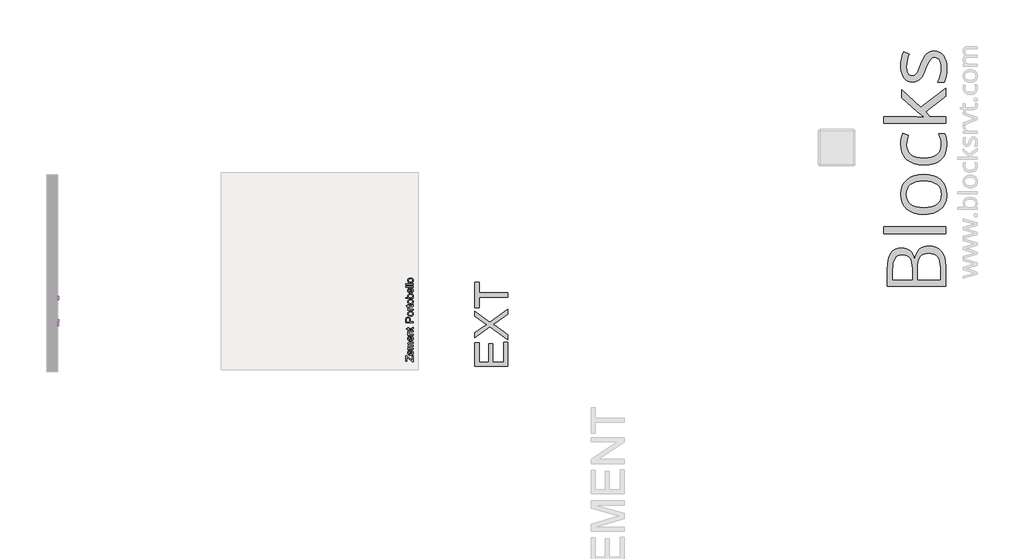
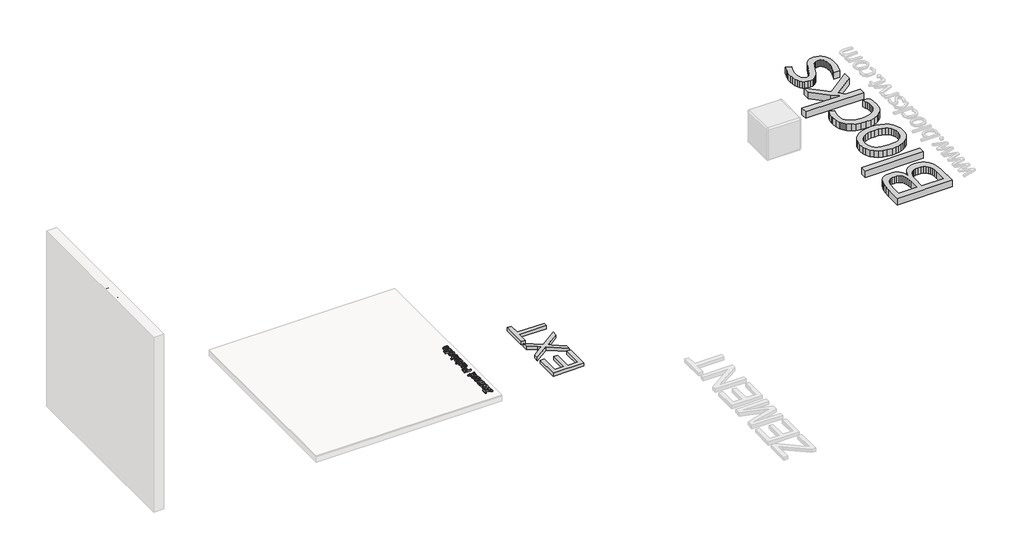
# One storey, part 11 of 12: 6 proxies.
"""IFC4 building model written with IfcOpenShell, lengths in millimetres."""

from ifc_helpers import new_model, si_unit, frame, origin, origin_with_axes, place, context, project, spatial, polyline, outline, extrude, element, save

model = new_model("IFC4")

# Units and contexts
model_context = context("Model", 3, world=origin())
ifc_project = project(units=[si_unit("LENGTHUNIT", "METRE", prefix="MILLI")], contexts=[model_context])

# Site, building, storey
site = spatial("IfcSite", under=ifc_project)
building = spatial("IfcBuilding", under=site)
storey = spatial("IfcBuildingStorey", under=building, Name="PORTOBELLO - SHOWROOM", Elevation=0.0)

# Proxies
placement = place(None, origin())
element("IfcBuildingElementProxy", 1, Name="10mm Arial", ObjectType="10mm Arial", at=placement, inside=storey, context=model_context, shape_type="SweptSolid", body=[
    extrude(outline(polyline([(42219.9517231, 17882.6766925), (42206.9287005, 17882.6766925), (42144.0208793, 17934.0575444), (42132.0524517, 17943.8186801), (42132.0524517, 17888.9552118), (42119.495413, 17888.9552118), (42119.495413, 17959.5885549), (42132.0524517, 17959.5885549), (42200.8954358, 17903.3516606), (42207.3946843, 17898.0541599), (42207.3946843, 17961.1581848), (42219.9517231, 17961.1581848), (42219.9517231, 17882.6766925)])), frame((0.0, 0.0, 17.0), z_axis=(0.0, 0.0, 1.0), x_axis=(1.0, 0.0, 0.0)), (0.0, 0.0, 1.0), 20.0),
    extrude(outline(polyline([(42197.9769053, 18025.3658557), (42199.5465351, 18037.6776398), (42208.8232928, 18033.241596), (42215.7578684, 18026.1629333), (42220.0804818, 18016.6010671), (42221.521353, 18004.715413), (42219.0350838, 17989.9817391), (42211.5762764, 17978.6448423), (42199.6293086, 17971.4159611), (42183.6785584, 17969.006334), (42167.1913136, 17971.4404865), (42154.8611354, 17978.7429441), (42147.1724017, 17989.9265568), (42144.6094905, 18004.0041745), (42147.1662704, 18017.6433994), (42154.83661, 18028.5419035), (42167.1422627, 18035.6880113), (42183.604982, 18038.0700472), (42186.9894963, 18037.9964708), (42186.9894963, 17981.5633728), (42196.3888813, 17983.7369422), (42203.2989315, 17988.7861226), (42207.5479685, 17996.0732518), (42208.9643142, 18004.9606677), (42206.3400893, 18017.2724518), (42197.9769053, 18025.3658557)]), holes=[polyline([(42174.4324576, 17981.5633728), (42174.4324576, 18025.5130084), (42163.0526412, 18020.4852878), (42158.6380572, 18013.1644361), (42157.1665293, 18003.9551235), (42161.8631561, 17988.491817), (42167.3537948, 17983.6265776), (42174.4324576, 17981.5633728)])]), frame((0.0, 0.0, 17.0), z_axis=(0.0, 0.0, 1.0), x_axis=(1.0, 0.0, 0.0)), (0.0, 0.0, 1.0), 20.0),
    extrude(outline(polyline([(42219.9517231, 18050.627086), (42146.1791203, 18050.627086), (42146.1791203, 18063.1841248), (42158.3192262, 18063.1841248), (42148.3741496, 18071.8170889), (42144.6094905, 18084.1043475), (42148.447726, 18096.6859118), (42159.202143, 18103.6020933), (42148.2576536, 18113.4000171), (42144.6094905, 18125.7731149), (42146.1270037, 18135.2123537), (42150.6795434, 18142.1929146), (42158.3897369, 18146.506331), (42169.3802115, 18147.9441364), (42219.9517231, 18147.9441364), (42219.9517231, 18135.3870977), (42174.7758141, 18135.3870977), (42164.2911772, 18134.222138), (42159.1285666, 18130.0037578), (42157.1665293, 18122.8300589), (42162.1942499, 18110.4814866), (42168.736418, 18106.7934696), (42178.3074813, 18105.5641306), (42219.9517231, 18105.5641306), (42219.9517231, 18093.0070918), (42173.3778625, 18093.0070918), (42161.2132312, 18090.1008241), (42157.1665293, 18080.5726804), (42159.8643306, 18071.2775286), (42167.7615307, 18065.0971111), (42182.7465907, 18063.1841248), (42219.9517231, 18063.1841248), (42219.9517231, 18050.627086)])), frame((0.0, 0.0, 17.0), z_axis=(0.0, 0.0, 1.0), x_axis=(1.0, 0.0, 0.0)), (0.0, 0.0, 1.0), 20.0),
    extrude(outline(polyline([(42197.9769053, 18218.4303267), (42199.5465351, 18230.7421108), (42208.8232928, 18226.3060671), (42215.7578684, 18219.2274044), (42220.0804818, 18209.6655382), (42221.521353, 18197.7798841), (42219.0350838, 18183.0462102), (42211.5762764, 18171.7093133), (42199.6293086, 18164.4804321), (42183.6785584, 18162.0708051), (42167.1913136, 18164.5049576), (42154.8611354, 18171.8074152), (42147.1724017, 18182.9910279), (42144.6094905, 18197.0686455), (42147.1662704, 18210.7078705), (42154.83661, 18221.6063746), (42167.1422627, 18228.7524824), (42183.604982, 18231.1345183), (42186.9894963, 18231.0609419), (42186.9894963, 18174.6278438), (42196.3888813, 18176.8014133), (42203.2989315, 18181.8505937), (42207.5479685, 18189.1377229), (42208.9643142, 18198.0251387), (42206.3400893, 18210.3369228), (42197.9769053, 18218.4303267)]), holes=[polyline([(42174.4324576, 18174.6278438), (42174.4324576, 18218.5774795), (42163.0526412, 18213.5497589), (42158.6380572, 18206.2289072), (42157.1665293, 18197.0195946), (42161.8631561, 18181.5562881), (42167.3537948, 18176.6910487), (42174.4324576, 18174.6278438)])]), frame((0.0, 0.0, 17.0), z_axis=(0.0, 0.0, 1.0), x_axis=(1.0, 0.0, 0.0)), (0.0, 0.0, 1.0), 20.0),
    extrude(outline(polyline([(42219.9517231, 18243.6915571), (42146.1791203, 18243.6915571), (42146.1791203, 18256.2485958), (42156.4798162, 18256.2485958), (42147.5770719, 18265.8503159), (42144.6094905, 18278.9591777), (42147.0007235, 18290.8172406), (42153.2792429, 18298.9106445), (42162.5130809, 18302.6753036), (42174.6531868, 18303.3374912), (42219.9517231, 18303.3374912), (42219.9517231, 18290.7804524), (42176.3454439, 18290.7804524), (42165.2354077, 18289.3334499), (42159.3615585, 18284.2198902), (42157.1665293, 18275.5991888), (42162.096148, 18261.9752922), (42169.2391901, 18257.6802699), (42180.8090788, 18256.2485958), (42219.9517231, 18256.2485958), (42219.9517231, 18243.6915571)])), frame((0.0, 0.0, 17.0), z_axis=(0.0, 0.0, 1.0), x_axis=(1.0, 0.0, 0.0)), (0.0, 0.0, 1.0), 20.0),
    extrude(outline(polyline([(42209.479349, 18347.2871269), (42220.3196051, 18348.8567567), (42221.521353, 18339.4635031), (42219.4366883, 18328.9420781), (42213.9675093, 18323.6936283), (42199.7182134, 18322.1730494), (42158.7361591, 18322.1730494), (42158.7361591, 18312.7552703), (42146.1791203, 18312.7552703), (42146.1791203, 18322.1730494), (42128.2510044, 18322.1730494), (42120.8688391, 18334.7300881), (42146.1791203, 18334.7300881), (42146.1791203, 18347.2871269), (42158.7361591, 18347.2871269), (42158.7361591, 18334.7300881), (42199.3503314, 18334.7300881), (42205.8250545, 18335.3922757), (42208.1181856, 18337.538254), (42208.9643142, 18341.8179479), (42209.479349, 18347.2871269)])), frame((0.0, 0.0, 17.0), z_axis=(0.0, 0.0, 1.0), x_axis=(1.0, 0.0, 0.0)), (0.0, 0.0, 1.0), 20.0),
])
element("IfcBuildingElementProxy", 2, Name="10mm Arial", ObjectType="10mm Arial", at=placement, inside=storey, context=model_context, shape_type="SweptSolid", body=[
    extrude(outline(polyline([(42219.9517231, 18415.5248417), (42119.495413, 18415.5248417), (42119.495413, 18452.7544996), (42120.4519061, 18467.764085), (42125.148533, 18479.9655045), (42134.8606176, 18487.8749674), (42148.5580906, 18490.8670743), (42160.3977595, 18488.846789), (42170.2631283, 18482.7859331), (42176.9217924, 18471.452102), (42179.1413471, 18453.6128909), (42179.1413471, 18428.0818805), (42219.9517231, 18428.0818805), (42219.9517231, 18415.5248417)]), holes=[polyline([(42166.5843083, 18428.0818805), (42166.5843083, 18454.3486549), (42161.9735207, 18472.8408565), (42156.4246339, 18476.9427408), (42148.999549, 18478.3100355), (42138.6007512, 18475.0849367), (42132.9108431, 18466.6113881), (42132.0524517, 18454.0543493), (42132.0524517, 18428.0818805), (42166.5843083, 18428.0818805)])]), frame((0.0, 0.0, 17.0), z_axis=(0.0, 0.0, 1.0), x_axis=(1.0, 0.0, 0.0)), (0.0, 0.0, 1.0), 20.0),
    extrude(outline(polyline([(42183.0654217, 18503.4241131), (42165.2783273, 18506.1403085), (42152.7764708, 18514.2888947), (42146.6512356, 18524.3565986), (42144.6094905, 18536.4108653), (42147.0957596, 18549.6025005), (42154.5545671, 18560.139254), (42166.3973017, 18567.0462384), (42182.0353521, 18569.3485666), (42204.378052, 18565.2773392), (42217.0209299, 18553.4192762), (42221.521353, 18536.4108653), (42219.0442809, 18523.0598146), (42211.6130646, 18512.5353238), (42199.5220096, 18505.7019158), (42183.0654217, 18503.4241131)]), holes=[polyline([(42183.0408963, 18515.9811518), (42194.4053842, 18517.4342857), (42202.5018538, 18521.7936874), (42207.3486991, 18528.3542496), (42208.9643142, 18536.4108653), (42207.339502, 18544.4306928), (42202.4650656, 18550.9789923), (42194.2612971, 18555.338394), (42182.6484888, 18556.7915278), (42171.6150946, 18555.3291969), (42163.6289896, 18550.9422041), (42158.7821444, 18544.3847075), (42157.1665293, 18536.4108653), (42158.776013, 18528.3542496), (42163.6044642, 18521.7936874), (42171.6825397, 18517.4342857), (42183.0408963, 18515.9811518)])]), frame((0.0, 0.0, 17.0), z_axis=(0.0, 0.0, 1.0), x_axis=(1.0, 0.0, 0.0)), (0.0, 0.0, 1.0), 20.0),
    extrude(outline(polyline([(42219.9517231, 18583.4752352), (42146.1791203, 18583.4752352), (42146.1791203, 18594.4626441), (42157.0929529, 18594.4626441), (42147.0375117, 18602.2617424), (42144.6094905, 18610.1098917), (42148.4845142, 18622.7159814), (42159.7417032, 18618.5221266), (42157.1665293, 18609.6929587), (42159.6436014, 18602.5928362), (42166.5107319, 18598.0678877), (42181.1769608, 18596.032274), (42219.9517231, 18596.032274), (42219.9517231, 18583.4752352)])), frame((0.0, 0.0, 17.0), z_axis=(0.0, 0.0, 1.0), x_axis=(1.0, 0.0, 0.0)), (0.0, 0.0, 1.0), 20.0),
    extrude(outline(polyline([(42209.479349, 18657.247838), (42220.3196051, 18658.8174678), (42221.521353, 18649.4242142), (42219.4366883, 18638.9027892), (42213.9675093, 18633.6543394), (42199.7182134, 18632.1337604), (42158.7361591, 18632.1337604), (42158.7361591, 18622.7159814), (42148.4845142, 18622.7159814), (42146.1791203, 18622.7159814), (42146.1791203, 18632.1337604), (42128.2510044, 18632.1337604), (42120.8688391, 18644.6907992), (42146.1791203, 18644.6907992), (42146.1791203, 18657.247838), (42158.7361591, 18657.247838), (42158.7361591, 18644.6907992), (42199.3503314, 18644.6907992), (42205.8250545, 18645.3529868), (42208.1181856, 18647.4989651), (42208.9643142, 18651.778659), (42209.479349, 18657.247838)])), frame((0.0, 0.0, 17.0), z_axis=(0.0, 0.0, 1.0), x_axis=(1.0, 0.0, 0.0)), (0.0, 0.0, 1.0), 20.0),
    extrude(outline(polyline([(42183.0654217, 18666.6656171), (42165.2783273, 18669.3818125), (42152.7764708, 18677.5303987), (42146.6512356, 18687.5981026), (42144.6094905, 18699.6523693), (42147.0957596, 18712.8440045), (42154.5545671, 18723.380758), (42166.3973017, 18730.2877424), (42182.0353521, 18732.5900706), (42204.378052, 18728.5188432), (42217.0209299, 18716.6607802), (42221.521353, 18699.6523693), (42219.0442809, 18686.3013186), (42211.6130646, 18675.7768278), (42199.5220096, 18668.9434197), (42183.0654217, 18666.6656171)]), holes=[polyline([(42183.0408963, 18679.2226558), (42194.4053842, 18680.6757897), (42202.5018538, 18685.0351914), (42207.3486991, 18691.5957536), (42208.9643142, 18699.6523693), (42207.339502, 18707.6721968), (42202.4650656, 18714.2204963), (42194.2612971, 18718.5798979), (42182.6484888, 18720.0330318), (42171.6150946, 18718.5707009), (42163.6289896, 18714.1837081), (42158.7821444, 18707.6262115), (42157.1665293, 18699.6523693), (42158.776013, 18691.5957536), (42163.6044642, 18685.0351914), (42171.6825397, 18680.6757897), (42183.0408963, 18679.2226558)])]), frame((0.0, 0.0, 17.0), z_axis=(0.0, 0.0, 1.0), x_axis=(1.0, 0.0, 0.0)), (0.0, 0.0, 1.0), 20.0),
    extrude(outline(polyline([(42219.9517231, 18759.273778), (42219.9517231, 18746.7167392), (42119.495413, 18746.7167392), (42119.495413, 18759.273778), (42156.7495963, 18759.273778), (42147.644517, 18768.0661577), (42144.6094905, 18778.9922529), (42147.34408, 18791.5738172), (42155.0328137, 18801.3349528), (42166.9889785, 18807.3314293), (42181.9617757, 18809.5019331), (42198.724932, 18807.2547872), (42211.1961316, 18800.5133496), (42218.9400476, 18790.6203897), (42221.521353, 18778.9186765), (42218.1920209, 18767.753458), (42208.2040247, 18759.273778), (42219.9517231, 18759.273778)]), holes=[polyline([(42182.5503869, 18759.273778), (42200.1106208, 18762.7073433), (42206.7508908, 18769.2862996), (42208.9643142, 18777.839556), (42207.3333707, 18785.0868313), (42202.4405401, 18791.2795116), (42194.3164794, 18795.5285486), (42182.9918453, 18796.9448943), (42171.5016643, 18795.5867966), (42163.4695741, 18791.5125035), (42158.7422905, 18785.5129613), (42157.1665293, 18778.3791163), (42158.7974728, 18771.131841), (42163.6903033, 18764.9391607), (42171.6672112, 18760.6901237), (42182.5503869, 18759.273778)])]), frame((0.0, 0.0, 17.0), z_axis=(0.0, 0.0, 1.0), x_axis=(1.0, 0.0, 0.0)), (0.0, 0.0, 1.0), 20.0),
    extrude(outline(polyline([(42197.9769053, 18875.2792338), (42199.5465351, 18887.5910179), (42208.8232928, 18883.1549742), (42215.7578684, 18876.0763114), (42220.0804818, 18866.5144453), (42221.521353, 18854.6287911), (42219.0350838, 18839.8951172), (42211.5762764, 18828.5582204), (42199.6293086, 18821.3293392), (42183.6785584, 18818.9197121), (42167.1913136, 18821.3538647), (42154.8611354, 18828.6563223), (42147.1724017, 18839.8399349), (42144.6094905, 18853.9175526), (42147.1662704, 18867.5567776), (42154.83661, 18878.4552817), (42167.1422627, 18885.6013894), (42183.604982, 18887.9834254), (42186.9894963, 18887.909849), (42186.9894963, 18831.4767509), (42196.3888813, 18833.6503204), (42203.2989315, 18838.6995007), (42207.5479685, 18845.9866299), (42208.9643142, 18854.8740458), (42206.3400893, 18867.1858299), (42197.9769053, 18875.2792338)]), holes=[polyline([(42174.4324576, 18831.4767509), (42174.4324576, 18875.4263866), (42163.0526412, 18870.398666), (42158.6380572, 18863.0778143), (42157.1665293, 18853.8685017), (42161.8631561, 18838.4051951), (42167.3537948, 18833.5399558), (42174.4324576, 18831.4767509)])]), frame((0.0, 0.0, 17.0), z_axis=(0.0, 0.0, 1.0), x_axis=(1.0, 0.0, 0.0)), (0.0, 0.0, 1.0), 20.0),
    extrude(outline(polyline([(42219.9517231, 18900.5404641), (42119.495413, 18900.5404641), (42119.495413, 18913.0975029), (42219.9517231, 18913.0975029), (42219.9517231, 18900.5404641)])), frame((0.0, 0.0, 17.0), z_axis=(0.0, 0.0, 1.0), x_axis=(1.0, 0.0, 0.0)), (0.0, 0.0, 1.0), 20.0),
    extrude(outline(polyline([(42219.9517231, 18931.933061), (42119.495413, 18931.933061), (42119.495413, 18944.4900998), (42219.9517231, 18944.4900998), (42219.9517231, 18931.933061)])), frame((0.0, 0.0, 17.0), z_axis=(0.0, 0.0, 1.0), x_axis=(1.0, 0.0, 0.0)), (0.0, 0.0, 1.0), 20.0),
    extrude(outline(polyline([(42183.0654217, 18960.1863983), (42165.2783273, 18962.9025937), (42152.7764708, 18971.0511799), (42146.6512356, 18981.1188838), (42144.6094905, 18993.1731505), (42147.0957596, 19006.3647857), (42154.5545671, 19016.9015392), (42166.3973017, 19023.8085237), (42182.0353521, 19026.1108518), (42204.378052, 19022.0396244), (42217.0209299, 19010.1815614), (42221.521353, 18993.1731505), (42219.0442809, 18979.8220998), (42211.6130646, 18969.297609), (42199.5220096, 18962.464201), (42183.0654217, 18960.1863983)]), holes=[polyline([(42183.0408963, 18972.743437), (42194.4053842, 18974.1965709), (42202.5018538, 18978.5559726), (42207.3486991, 18985.1165348), (42208.9643142, 18993.1731505), (42207.339502, 19001.192978), (42202.4650656, 19007.7412775), (42194.2612971, 19012.1006792), (42182.6484888, 19013.553813), (42171.6150946, 19012.0914821), (42163.6289896, 19007.7044893), (42158.7821444, 19001.1469928), (42157.1665293, 18993.1731505), (42158.776013, 18985.1165348), (42163.6044642, 18978.5559726), (42171.6825397, 18974.1965709), (42183.0408963, 18972.743437)])]), frame((0.0, 0.0, 17.0), z_axis=(0.0, 0.0, 1.0), x_axis=(1.0, 0.0, 0.0)), (0.0, 0.0, 1.0), 20.0),
])
element("IfcBuildingElementProxy", 3, Name="10mm Arial", ObjectType="10mm Arial", at=placement, inside=storey, context=model_context, shape_type="SweptSolid", body=[
    extrude(outline(polyline([(17855.5100527, 2518.9109306), (17855.5100527, 2619.3672407), (17892.7397106, 2619.3672407), (17907.749296, 2618.4107475), (17919.9507155, 2613.7141207), (17927.8601784, 2604.002036), (17930.8522853, 2590.3045631), (17928.832, 2578.4648942), (17922.7711442, 2568.5995254), (17911.437313, 2561.9408613), (17893.598102, 2559.7213066), (17868.0670915, 2559.7213066), (17868.0670915, 2518.9109306), (17855.5100527, 2518.9109306)]), holes=[polyline([(17868.0670915, 2572.2783453), (17894.3338659, 2572.2783453), (17912.8260676, 2576.889133), (17916.9279518, 2582.4380198), (17918.2952466, 2589.8631047), (17915.0701477, 2600.2619024), (17906.5965991, 2605.9518106), (17894.0395603, 2606.8102019), (17868.0670915, 2606.8102019), (17868.0670915, 2572.2783453)])]), frame((37348.7766485, 0.0, 0.0), z_axis=(1.0, 0.0, 0.0), x_axis=(0.0, 1.0, 0.0)), (0.0, 0.0, 1.0), 20.0),
    extrude(outline(polyline([(37368.7766485, 17959.1056226), (37368.7766485, 17946.5485838), (37348.7766485, 17946.5485838), (37348.7766485, 17959.1056226), (37368.7766485, 17959.1056226)])), frame((0.0, 0.0, 2518.9109306), z_axis=(0.0, 0.0, 1.0), x_axis=(1.0, 0.0, 0.0)), (0.0, 0.0, 1.0), 100.4563101),
    extrude(outline(polyline([(18025.0300761, 2528.3287096), (18012.8531821, 2519.8183728), (17999.4009638, 2517.3413007), (17988.9071299, 2518.8312228), (17981.1662795, 2523.300989), (17976.3930107, 2530.0884118), (17974.801921, 2538.5313036), (17977.2054167, 2548.4641175), (17983.5207243, 2555.6746046), (17992.313104, 2559.794883), (18003.1778856, 2561.6833439), (18024.9564997, 2565.9998259), (18025.0300761, 2568.7957291), (18021.5719853, 2578.0663554), (18007.6905714, 2581.6961244), (17994.9863798, 2579.280366), (17988.9285896, 2570.7087155), (17976.3715509, 2572.2783453), (17981.8039417, 2584.5410785), (17992.7422997, 2591.7270401), (18009.3092522, 2594.2531632), (18024.527304, 2592.0213457), (18033.12348, 2586.4172767), (18036.9739782, 2577.8946771), (18037.5871149, 2566.9072682), (18037.5871149, 2551.2845461), (18038.224777, 2529.4691438), (18040.7263746, 2518.9109306), (18028.1693358, 2518.9109306), (18025.0300761, 2528.3287096)]), holes=[polyline([(18025.0300761, 2553.4427872), (18004.7720409, 2549.592289), (17993.968573, 2547.5566752), (17989.0757424, 2544.2457373), (17987.3589598, 2539.4142204), (17991.0990934, 2532.6206662), (18002.0742396, 2529.8983395), (18014.7784312, 2532.9027091), (18022.9699369, 2540.1745099), (18024.9564997, 2549.8865946), (18025.0300761, 2553.4427872)])]), frame((37348.7766485, 0.0, 0.0), z_axis=(1.0, 0.0, 0.0), x_axis=(0.0, 1.0, 0.0)), (0.0, 0.0, 1.0), 20.0),
    extrude(outline(polyline([(18081.5367506, 2529.3833047), (18083.1063804, 2518.5430486), (18073.7131268, 2517.3413007), (18063.1917017, 2519.4259654), (18057.9432519, 2524.8951443), (18056.422673, 2539.1444403), (18056.422673, 2580.1264946), (18047.0048939, 2580.1264946), (18047.0048939, 2592.6835333), (18056.422673, 2592.6835333), (18056.422673, 2610.6116492), (18068.9797118, 2617.9938146), (18068.9797118, 2592.6835333), (18081.5367506, 2592.6835333), (18081.5367506, 2580.1264946), (18068.9797118, 2580.1264946), (18068.9797118, 2539.5123223), (18069.6418994, 2533.0375992), (18071.7878777, 2530.7444681), (18076.0675716, 2529.8983395), (18081.5367506, 2529.3833047)])), frame((37348.7766485, 0.0, 0.0), z_axis=(1.0, 0.0, 0.0), x_axis=(0.0, 1.0, 0.0)), (0.0, 0.0, 1.0), 20.0),
    extrude(outline(polyline([(18086.2456401, 2518.9109306), (18086.2456401, 2530.7322053), (18129.5821391, 2580.1264946), (18116.7553202, 2580.1264946), (18089.3848998, 2580.1264946), (18089.3848998, 2592.6835333), (18147.4612041, 2592.6835333), (18147.4612041, 2582.0149555), (18109.0297983, 2538.1879471), (18103.1436864, 2531.4679693), (18117.6627625, 2531.4679693), (18149.0308339, 2531.4679693), (18149.0308339, 2518.9109306), (18086.2456401, 2518.9109306)])), frame((37348.7766485, 0.0, 0.0), z_axis=(1.0, 0.0, 0.0), x_axis=(0.0, 1.0, 0.0)), (0.0, 0.0, 1.0), 20.0),
    extrude(outline(polyline([(18194.5500995, 2518.9109306), (18194.5500995, 2531.9339532), (18245.9309515, 2594.8417744), (18255.6920871, 2606.8102019), (18200.8286189, 2606.8102019), (18200.8286189, 2619.3672407), (18271.4619619, 2619.3672407), (18271.4619619, 2606.8102019), (18215.2250676, 2537.9672179), (18209.9275669, 2531.4679693), (18273.0315918, 2531.4679693), (18273.0315918, 2518.9109306), (18194.5500995, 2518.9109306)])), frame((37348.7766485, 0.0, 0.0), z_axis=(1.0, 0.0, 0.0), x_axis=(0.0, 1.0, 0.0)), (0.0, 0.0, 1.0), 20.0),
    extrude(outline(polyline([(18337.2392627, 2540.8857484), (18349.5510468, 2539.3161186), (18345.1150031, 2530.0393609), (18338.0363403, 2523.1047853), (18328.4744741, 2518.7821719), (18316.58882, 2517.3413007), (18301.8551461, 2519.8275699), (18290.5182493, 2527.2863773), (18283.2893681, 2539.2333451), (18280.879741, 2555.1840953), (18283.3138935, 2571.67134), (18290.6163511, 2584.0015182), (18301.7999638, 2591.6902519), (18315.8775815, 2594.2531632), (18329.5168065, 2591.6963833), (18340.4153106, 2584.0260437), (18347.5614183, 2571.720391), (18349.9434542, 2555.2576717), (18349.8698778, 2551.8731573), (18293.4367798, 2551.8731573), (18295.6103492, 2542.4737723), (18300.6595296, 2535.5637222), (18307.9466588, 2531.3146852), (18316.8340747, 2529.8983395), (18329.1458588, 2532.5225644), (18337.2392627, 2540.8857484)]), holes=[polyline([(18293.4367798, 2564.4301961), (18337.3864155, 2564.4301961), (18332.3586949, 2575.8100125), (18325.0378432, 2580.2245964), (18315.8285306, 2581.6961244), (18300.365224, 2576.9994976), (18295.4999846, 2571.5088588), (18293.4367798, 2564.4301961)])]), frame((37348.7766485, 0.0, 0.0), z_axis=(1.0, 0.0, 0.0), x_axis=(0.0, 1.0, 0.0)), (0.0, 0.0, 1.0), 20.0),
    extrude(outline(polyline([(18362.500493, 2518.9109306), (18362.500493, 2592.6835333), (18375.0575318, 2592.6835333), (18375.0575318, 2580.5434275), (18383.6904959, 2590.4885041), (18395.9777546, 2594.2531632), (18408.5593188, 2590.4149277), (18415.4755003, 2579.6605107), (18425.2734241, 2590.6050001), (18437.6465219, 2594.2531632), (18447.0857607, 2592.7356499), (18454.0663216, 2588.1831103), (18458.379738, 2580.4729168), (18459.8175435, 2569.4824422), (18459.8175435, 2518.9109306), (18447.2605047, 2518.9109306), (18447.2605047, 2564.0868396), (18446.095545, 2574.5714764), (18441.8771648, 2579.7340871), (18434.7034659, 2581.6961244), (18422.3548936, 2576.6684038), (18418.6668766, 2570.1262357), (18417.4375376, 2560.5551724), (18417.4375376, 2518.9109306), (18404.8804989, 2518.9109306), (18404.8804989, 2565.4847911), (18401.9742311, 2577.6494225), (18392.4460874, 2581.6961244), (18383.1509357, 2578.9983231), (18376.9705181, 2571.1011229), (18375.0575318, 2556.116063), (18375.0575318, 2518.9109306), (18362.500493, 2518.9109306)])), frame((37348.7766485, 0.0, 0.0), z_axis=(1.0, 0.0, 0.0), x_axis=(0.0, 1.0, 0.0)), (0.0, 0.0, 1.0), 20.0),
    extrude(outline(polyline([(18530.3037337, 2540.8857484), (18542.6155178, 2539.3161186), (18538.1794741, 2530.0393609), (18531.1008114, 2523.1047853), (18521.5389452, 2518.7821719), (18509.6532911, 2517.3413007), (18494.9196172, 2519.8275699), (18483.5827204, 2527.2863773), (18476.3538391, 2539.2333451), (18473.9442121, 2555.1840953), (18476.3783646, 2571.67134), (18483.6808222, 2584.0015182), (18494.8644349, 2591.6902519), (18508.9420526, 2594.2531632), (18522.5812775, 2591.6963833), (18533.4797816, 2584.0260437), (18540.6258894, 2571.720391), (18543.0079253, 2555.2576717), (18542.9343489, 2551.8731573), (18486.5012508, 2551.8731573), (18488.6748203, 2542.4737723), (18493.7240007, 2535.5637222), (18501.0111299, 2531.3146852), (18509.8985457, 2529.8983395), (18522.2103298, 2532.5225644), (18530.3037337, 2540.8857484)]), holes=[polyline([(18486.5012508, 2564.4301961), (18530.4508865, 2564.4301961), (18525.4231659, 2575.8100125), (18518.1023142, 2580.2245964), (18508.8930016, 2581.6961244), (18493.4296951, 2576.9994976), (18488.5644557, 2571.5088588), (18486.5012508, 2564.4301961)])]), frame((37348.7766485, 0.0, 0.0), z_axis=(1.0, 0.0, 0.0), x_axis=(0.0, 1.0, 0.0)), (0.0, 0.0, 1.0), 20.0),
    extrude(outline(polyline([(18555.5649641, 2518.9109306), (18555.5649641, 2592.6835333), (18568.1220028, 2592.6835333), (18568.1220028, 2582.3828375), (18577.7237229, 2591.2855817), (18590.8325847, 2594.2531632), (18602.6906477, 2591.8619302), (18610.7840516, 2585.5834108), (18614.5487106, 2576.3495727), (18615.2108982, 2564.2094669), (18615.2108982, 2518.9109306), (18602.6538595, 2518.9109306), (18602.6538595, 2562.5172097), (18601.2068569, 2573.627246), (18596.0932972, 2579.5010952), (18587.4725958, 2581.6961244), (18573.8486992, 2576.7665057), (18569.5536769, 2569.6234636), (18568.1220028, 2558.0535748), (18568.1220028, 2518.9109306), (18555.5649641, 2518.9109306)])), frame((37348.7766485, 0.0, 0.0), z_axis=(1.0, 0.0, 0.0), x_axis=(0.0, 1.0, 0.0)), (0.0, 0.0, 1.0), 20.0),
    extrude(outline(polyline([(18659.1605339, 2529.3833047), (18660.7301638, 2518.5430486), (18651.3369102, 2517.3413007), (18640.8154851, 2519.4259654), (18635.5670353, 2524.8951443), (18634.0464564, 2539.1444403), (18634.0464564, 2580.1264946), (18624.6286773, 2580.1264946), (18624.6286773, 2592.6835333), (18634.0464564, 2592.6835333), (18634.0464564, 2610.6116492), (18646.6034951, 2617.9938146), (18646.6034951, 2592.6835333), (18659.1605339, 2592.6835333), (18659.1605339, 2580.1264946), (18646.6034951, 2580.1264946), (18646.6034951, 2539.5123223), (18647.2656827, 2533.0375992), (18649.411661, 2530.7444681), (18653.6913549, 2529.8983395), (18659.1605339, 2529.3833047)])), frame((37348.7766485, 0.0, 0.0), z_axis=(1.0, 0.0, 0.0), x_axis=(0.0, 1.0, 0.0)), (0.0, 0.0, 1.0), 20.0),
])
element("IfcBuildingElementProxy", 4, Name="10mm Arial Narrow", ObjectType="10mm Arial Narrow", at=placement, inside=storey, context=model_context, shape_type="SweptSolid", body=[
    extrude(outline(polyline([(18722.6451118, 2518.9109306), (18722.6451118, 2619.6295343), (18753.9419965, 2619.6295343), (18770.237698, 2617.7512136), (18781.7106842, 2608.2707704), (18786.0003626, 2591.2516616), (18784.2140542, 2579.175836), (18778.855129, 2569.5494423), (18769.1113402, 2563.2481839), (18754.1704409, 2561.1477644), (18732.3920735, 2561.1477644), (18732.3920735, 2518.9109306), (18722.6451118, 2518.9109306)]), holes=[polyline([(18732.3920735, 2572.5192197), (18755.3634284, 2572.5192197), (18771.2276238, 2577.0500339), (18776.2534009, 2590.7186246), (18773.7785865, 2600.884401), (18767.8009576, 2606.6843509), (18755.134984, 2608.258079), (18732.3920735, 2608.258079), (18732.3920735, 2572.5192197)])]), frame((37348.7766485, 0.0, 0.0), z_axis=(1.0, 0.0, 0.0), x_axis=(0.0, 1.0, 0.0)), (0.0, 0.0, 1.0), 20.0),
    extrude(outline(polyline([(18794.1228306, 2555.4620368), (18796.0772995, 2572.0528123), (18801.9407061, 2584.0048971), (18810.7992728, 2591.2294517), (18821.739222, 2593.6376366), (18832.5522576, 2591.2294517), (18841.436207, 2584.0048971), (18847.3757618, 2572.2431827), (18849.3556133, 2556.2235181), (18847.410663, 2539.0616316), (18841.5758119, 2526.9191764), (18832.7267637, 2519.6946218), (18821.739222, 2517.2864369), (18810.8785938, 2519.7009675), (18802.0041629, 2526.9445591), (18796.0931637, 2538.9029896), (18794.1228306, 2555.4620368)]), holes=[polyline([(18803.8697923, 2555.4874195), (18805.1738291, 2542.9356681), (18809.0859397, 2534.06441), (18814.9271365, 2528.7911515), (18822.0184318, 2527.0333986), (18828.738505, 2528.8070156), (18834.4305783, 2534.1278668), (18838.3141333, 2543.014989), (18839.6086517, 2555.4874195), (18838.3046148, 2568.0010968), (18834.3925042, 2576.8596635), (18828.5513075, 2582.1329221), (18821.4600121, 2583.8906749), (18814.6923464, 2582.1234035), (18809.0097916, 2576.8215894), (18805.1547921, 2567.9535042), (18803.8697923, 2555.4874195)])]), frame((37348.7766485, 0.0, 0.0), z_axis=(1.0, 0.0, 0.0), x_axis=(0.0, 1.0, 0.0)), (0.0, 0.0, 1.0), 20.0),
    extrude(outline(polyline([(18920.8333321, 2527.0333986), (18922.4578257, 2517.2864369), (18915.0968391, 2517.2864369), (18906.8220748, 2519.4058935), (18902.5070136, 2525.2058433), (18901.3394088, 2539.8516685), (18901.3394088, 2582.2661813), (18893.2169408, 2582.2661813), (18893.2169408, 2585.5151685), (18891.5924472, 2580.6416877), (18884.0283988, 2582.2661813), (18877.9492391, 2579.9436631), (18874.0783754, 2573.45838), (18872.0985239, 2558.0510734), (18872.0985239, 2518.9109306), (18862.3515622, 2518.9109306), (18862.3515622, 2592.013143), (18872.0985239, 2592.013143), (18872.0985239, 2582.3169467), (18878.3426712, 2591.4039579), (18884.7391148, 2593.6376366), (18893.2169408, 2592.013143), (18901.3394088, 2592.013143), (18901.3394088, 2608.258079), (18911.0863705, 2616.3805471), (18911.0863705, 2592.013143), (18920.8333321, 2592.013143), (18920.8333321, 2582.2661813), (18911.0863705, 2582.2661813), (18911.0863705, 2537.6179898), (18911.9493827, 2529.6224353), (18916.5690364, 2527.0333986), (18920.8333321, 2527.0333986)])), frame((37348.7766485, 0.0, 0.0), z_axis=(1.0, 0.0, 0.0), x_axis=(0.0, 1.0, 0.0)), (0.0, 0.0, 1.0), 20.0),
    extrude(outline(polyline([(18927.3313066, 2555.4620368), (18929.2857754, 2572.0528123), (18935.1491821, 2584.0048971), (18944.0077488, 2591.2294517), (18954.9476979, 2593.6376366), (18965.7607335, 2591.2294517), (18974.6446829, 2584.0048971), (18980.5842377, 2572.2431827), (18982.5640893, 2556.2235181), (18980.6191389, 2539.0616316), (18974.7842878, 2526.9191764), (18965.9352397, 2519.6946218), (18954.9476979, 2517.2864369), (18944.0870697, 2519.7009675), (18935.2126388, 2526.9445591), (18929.3016396, 2538.9029896), (18927.3313066, 2555.4620368)]), holes=[polyline([(18937.0782682, 2555.4874195), (18938.3823051, 2542.9356681), (18942.2944157, 2534.06441), (18948.1356124, 2528.7911515), (18955.2269078, 2527.0333986), (18961.9469809, 2528.8070156), (18967.6390542, 2534.1278668), (18971.5226093, 2543.014989), (18972.8171276, 2555.4874195), (18971.5130908, 2568.0010968), (18967.6009802, 2576.8596635), (18961.7597834, 2582.1329221), (18954.6684881, 2583.8906749), (18947.9008223, 2582.1234035), (18942.2182675, 2576.8215894), (18938.363268, 2567.9535042), (18937.0782682, 2555.4874195)])]), frame((37348.7766485, 0.0, 0.0), z_axis=(1.0, 0.0, 0.0), x_axis=(0.0, 1.0, 0.0)), (0.0, 0.0, 1.0), 20.0),
    extrude(outline(polyline([(19005.3069998, 2518.9109306), (18995.5600381, 2518.9109306), (18995.5600381, 2619.6295343), (19005.3069998, 2619.6295343), (19005.3069998, 2584.2206502), (19012.7060605, 2591.302427), (19021.9072939, 2593.6376366), (19034.7890205, 2589.4367976), (19044.066402, 2576.7073672), (19047.5438336, 2556.0204564), (19045.6115746, 2539.566113), (19039.8147976, 2527.3633739), (19031.4416753, 2519.8056712), (19021.7803803, 2517.2864369), (19012.439542, 2519.9008564), (19005.3069998, 2527.6679664), (19005.3069998, 2518.9109306)]), holes=[polyline([(19005.3069998, 2556.0204564), (19007.3883822, 2538.7729032), (19013.2771716, 2530.0412501), (19021.7296149, 2527.0333986), (19027.6723425, 2528.8228798), (19032.9106998, 2534.1913236), (19037.796872, 2555.614333), (19033.0883788, 2577.0500339), (19027.8436758, 2582.1805147), (19021.5265532, 2583.8906749), (19015.5489243, 2582.1011937), (19010.2566288, 2576.73275), (19005.3069998, 2556.0204564)])]), frame((37348.7766485, 0.0, 0.0), z_axis=(1.0, 0.0, 0.0), x_axis=(0.0, 1.0, 0.0)), (0.0, 0.0, 1.0), 20.0),
    extrude(outline(polyline([(19099.5276291, 2541.6538411), (19109.2745908, 2540.0293475), (19105.5750604, 2530.1427809), (19099.7560735, 2523.02293), (19092.0524202, 2518.7205602), (19082.6988906, 2517.2864369), (19071.1053366, 2519.7009675), (19061.9612144, 2526.9445591), (19056.0216596, 2538.7506933), (19054.0418081, 2554.8528517), (19056.0311782, 2571.5197753), (19061.9992885, 2583.7003046), (19071.0133243, 2591.1533036), (19082.140471, 2593.6376366), (19092.8234201, 2591.2389702), (19101.5709375, 2584.0429712), (19107.4057885, 2572.3034666), (19109.3507389, 2556.2742836), (19109.2745908, 2553.0252963), (19063.7887697, 2553.0252963), (19069.7917813, 2533.5821385), (19075.7218175, 2528.6705836), (19082.8258042, 2527.0333986), (19093.004272, 2530.6885092), (19099.5276291, 2541.6538411)]), holes=[polyline([(19064.4487202, 2562.772258), (19099.5276291, 2562.772258), (19095.2633334, 2577.0373425), (19089.4380008, 2582.1773418), (19082.2166191, 2583.8906749), (19070.0075343, 2578.1795646), (19064.4487202, 2562.772258)])]), frame((37348.7766485, 0.0, 0.0), z_axis=(1.0, 0.0, 0.0), x_axis=(0.0, 1.0, 0.0)), (0.0, 0.0, 1.0), 20.0),
    extrude(outline(polyline([(37368.7766485, 19132.0175013), (37368.7766485, 19122.2705396), (37348.7766485, 19122.2705396), (37348.7766485, 19132.0175013), (37368.7766485, 19132.0175013)])), frame((0.0, 0.0, 2518.9109306), z_axis=(0.0, 0.0, 1.0), x_axis=(1.0, 0.0, 0.0)), (0.0, 0.0, 1.0), 100.7186038),
    extrude(outline(polyline([(37368.7766485, 19158.009399), (37368.7766485, 19148.2624374), (37348.7766485, 19148.2624374), (37348.7766485, 19158.009399), (37368.7766485, 19158.009399)])), frame((0.0, 0.0, 2518.9109306), z_axis=(0.0, 0.0, 1.0), x_axis=(1.0, 0.0, 0.0)), (0.0, 0.0, 1.0), 100.7186038),
    extrude(outline(polyline([(19169.3808543, 2555.4620368), (19171.3353232, 2572.0528123), (19177.1987298, 2584.0048971), (19186.0572965, 2591.2294517), (19196.9972456, 2593.6376366), (19207.8102812, 2591.2294517), (19216.6942307, 2584.0048971), (19222.6337854, 2572.2431827), (19224.613637, 2556.2235181), (19222.6686866, 2539.0616316), (19216.8338356, 2526.9191764), (19207.9847874, 2519.6946218), (19196.9972456, 2517.2864369), (19186.1366175, 2519.7009675), (19177.2621866, 2526.9445591), (19171.3511874, 2538.9029896), (19169.3808543, 2555.4620368)]), holes=[polyline([(19179.1278159, 2555.4874195), (19180.4318528, 2542.9356681), (19184.3439634, 2534.06441), (19190.1851601, 2528.7911515), (19197.2764555, 2527.0333986), (19203.9965287, 2528.8070156), (19209.688602, 2534.1278668), (19213.572157, 2543.014989), (19214.8666753, 2555.4874195), (19213.5626385, 2568.0010968), (19209.6505279, 2576.8596635), (19203.8093312, 2582.1329221), (19196.7180358, 2583.8906749), (19189.95037, 2582.1234035), (19184.2678153, 2576.8215894), (19180.4128158, 2567.9535042), (19179.1278159, 2555.4874195)])]), frame((37348.7766485, 0.0, 0.0), z_axis=(1.0, 0.0, 0.0), x_axis=(0.0, 1.0, 0.0)), (0.0, 0.0, 1.0), 20.0),
])
element("IfcBuildingElementProxy", 5, Name="450mm Arial", ObjectType="450mm Arial", at=placement, inside=storey, context=model_context, shape_type="SweptSolid", body=[
    extrude(outline(polyline([(43514.4179057, 17817.0488385), (43064.7617629, 17817.0488385), (43064.7617629, 18140.2391911), (43120.9687807, 18140.2391911), (43120.9687807, 17873.2558563), (43254.4604481, 17873.2558563), (43254.4604481, 18126.1874366), (43310.667466, 18126.1874366), (43310.667466, 17873.2558563), (43458.2108879, 17873.2558563), (43458.2108879, 18147.2650683), (43514.4179057, 18147.2650683), (43514.4179057, 17817.0488385)])), origin_with_axes(), (0.0, 0.0, 1.0), 50.0),
    extrude(outline(polyline([(43514.4179057, 18182.3944545), (43269.3904373, 18355.7360193), (43064.7617629, 18210.4979634), (43064.7617629, 18277.9024731), (43179.9202819, 18359.6880753), (43224.8200286, 18387.2426875), (43179.1518266, 18419.5178111), (43064.7617629, 18500.4251786), (43064.7617629, 18568.8177022), (43270.0491133, 18423.5796463), (43514.4179057, 18596.9212112), (43514.4179057, 18529.5167015), (43351.5053774, 18414.0288445), (43317.6933432, 18389.9871708), (43354.7987574, 18363.5303519), (43514.4179057, 18250.7869782), (43514.4179057, 18182.3944545)])), origin_with_axes(), (0.0, 0.0, 1.0), 50.0),
    extrude(outline(polyline([(43514.4179057, 18765.5422647), (43120.9687807, 18765.5422647), (43120.9687807, 18617.9988429), (43064.7617629, 18617.9988429), (43064.7617629, 18969.2927044), (43120.9687807, 18969.2927044), (43120.9687807, 18821.7492826), (43514.4179057, 18821.7492826), (43514.4179057, 18765.5422647)])), origin_with_axes(), (0.0, 0.0, 1.0), 50.0),
])
element("IfcBuildingElementProxy", 6, Name="80mm OpenSans", ObjectType="80mm OpenSans", at=placement, inside=storey, context=model_context, shape_type="SweptSolid", body=[
    extrude(outline(polyline([(48711.1615786, 18912.5162261), (48711.1615786, 19137.4993467), (48714.0985578, 19211.3294446), (48722.9094953, 19274.1777943), (48737.5943912, 19326.0443958), (48758.1532454, 19366.9292491), (48785.0517682, 19397.8989809), (48818.7556698, 19420.0202178), (48859.2649503, 19433.29296), (48906.5796096, 19437.7172074), (48940.2384425, 19435.2459385), (48970.7875328, 19427.8321318), (48998.2268804, 19415.4757872), (49022.5564854, 19398.1769047), (49043.3406832, 19376.1458052), (49060.1438096, 19349.5928094), (49072.9658644, 19318.5179172), (49081.8068478, 19282.9211287), (49087.0949126, 19282.9211287), (49097.0100341, 19325.4547465), (49111.0113875, 19362.3172153), (49129.0989728, 19393.508535), (49151.2727899, 19419.0287057), (49177.532839, 19438.8777273), (49207.87912, 19453.0555999), (49242.3116328, 19461.5623235), (49280.8303775, 19464.397898), (49332.0660168, 19459.8835132), (49377.367606, 19446.3403586), (49416.7351452, 19423.7684342), (49450.1686344, 19392.1677402), (49476.8267907, 19352.4696969), (49495.8683308, 19305.6057249), (49507.2932549, 19251.5758242), (49511.1015629, 19190.3799947), (49511.1015629, 18912.5162261), (48711.1615786, 18912.5162261)]), holes=[polyline([(49049.5977258, 19005.5380933), (49049.5977258, 19157.449773), (49047.6672817, 19202.9316372), (49041.8759494, 19241.5480308), (49032.2237288, 19273.298954), (49018.7106201, 19298.1844067), (49000.6305462, 19316.9555344), (48977.2774305, 19330.3634828), (48948.6512729, 19338.4082519), (48914.7520734, 19341.0898415), (48883.5494865, 19338.1002822), (48857.0040021, 19329.1316041), (48835.1156203, 19314.1838073), (48817.8843409, 19293.2568918), (48804.8444539, 19265.8250556), (48795.5302488, 19231.3624969), (48789.9417258, 19189.8692157), (48788.0788848, 19141.345212), (48788.0788848, 19005.5380933), (49049.5977258, 19005.5380933)]), polyline([(49126.515032, 19005.5380933), (49434.1842568, 19005.5380933), (49434.1842568, 19171.1506682), (49431.7730795, 19216.2569596), (49424.5395477, 19255.4292009), (49412.4836613, 19288.6673923), (49395.6054204, 19315.9715337), (49373.6043667, 19337.2665106), (49346.180042, 19352.4772084), (49313.3324463, 19361.603627), (49275.0615796, 19364.6457666), (49239.3671422, 19361.5360239), (49208.720403, 19352.206796), (49183.121362, 19336.6580827), (49162.5700193, 19314.8898841), (49146.7959623, 19286.782017), (49135.5287788, 19252.2142979), (49128.7684687, 19211.186727), (49126.515032, 19163.6993042), (49126.515032, 19005.5380933)])]), origin_with_axes(), (0.0, 0.0, 1.0), 100.0),
    extrude(outline(polyline([(49511.1015629, 19726.1571056), (49511.1015629, 19635.2985377), (48665.0111949, 19635.2985377), (48665.0111949, 19726.1571056), (49511.1015629, 19726.1571056)])), origin_with_axes(), (0.0, 0.0, 1.0), 100.0),
    extrude(outline(polyline([(49210.6433356, 20447.4972177), (49280.9580723, 20442.8776725), (49343.1153681, 20429.0190367), (49397.115223, 20405.9213105), (49442.957637, 20373.5844938), (49479.5008689, 20333.120282), (49505.6031774, 20285.6403707), (49521.2645625, 20231.1447597), (49526.4850242, 20169.6334491), (49524.0888698, 20130.5062765), (49516.9004067, 20093.6475634), (49504.9196349, 20059.05731), (49488.1465544, 20026.7355162), (49466.8966462, 19997.3281672), (49441.4853917, 19971.4812482), (49411.9127907, 19949.1947592), (49378.1788432, 19930.4687002), (49340.8469084, 19915.6410867), (49300.4803456, 19905.0499342), (49257.0791547, 19898.6952427), (49210.6433356, 19896.5770122), (49140.3586448, 19901.1590001), (49078.2914865, 19914.904964), (49024.4418607, 19937.8149038), (48978.8097675, 19969.8888196), (48942.4768563, 20010.1051533), (48916.524777, 20057.442347), (48900.9535293, 20111.9004007), (48895.7631135, 20173.4793144), (48901.0737126, 20233.1127611), (48917.0055101, 20286.3013788), (48943.558506, 20333.0451675), (48980.7327001, 20373.3441272), (49026.9657099, 20405.7861043), (49080.6951523, 20428.9589451), (49141.9210276, 20442.8626495), (49210.6433356, 20447.4972177)]), holes=[polyline([(49209.9222359, 19991.0410788), (49264.9661831, 19993.9104549), (49313.0394995, 20002.5185831), (49354.142185, 20016.8654634), (49388.2742396, 20036.9510959), (49415.0901364, 20062.5952056), (49434.2443484, 20093.6175176), (49445.7368756, 20130.0180318), (49449.567718, 20171.7967483), (49445.7518985, 20213.5904878), (49434.30444, 20250.0360707), (49415.2253426, 20281.1334973), (49388.5146062, 20306.8827673), (49354.4576661, 20327.0735602), (49313.3399577, 20341.4955551), (49265.161481, 20350.1487521), (49209.9222359, 20353.033151), (49155.24635, 20350.1487521), (49107.5561179, 20341.4955551), (49066.8515395, 20327.0735602), (49033.132615, 20306.8827673), (49006.6847795, 20281.0583827), (48987.7934685, 20249.7356125), (48976.4586818, 20212.9144568), (48972.6804196, 20170.5949154), (48976.4061017, 20128.8537562), (48987.5831477, 20092.5659138), (49006.2115578, 20061.7313882), (49032.2913319, 20036.3501795), (49065.7473555, 20016.5274479), (49106.5045141, 20002.368354), (49154.5628075, 19993.8728976), (49209.9222359, 19991.0410788)])]), origin_with_axes(), (0.0, 0.0, 1.0), 100.0),
    extrude(outline(polyline([(49526.4850242, 20849.6305091), (49521.3997687, 20787.6009081), (49506.1440022, 20732.9926253), (49480.7177247, 20685.8056607), (49445.1209362, 20646.0400143), (49400.2249656, 20614.4919004), (49346.9011417, 20591.9575334), (49285.1494646, 20578.4369132), (49214.9699341, 20573.9300397), (49142.9876543, 20578.5045163), (49079.6735944, 20592.2279458), (49025.0277543, 20615.1003283), (48979.0501341, 20647.1216639), (48959.5297386, 20666.3904256), (48942.6120625, 20687.6008986), (48928.2971059, 20710.7530829), (48916.5848686, 20735.8469784), (48900.9685522, 20791.8599035), (48895.7631135, 20855.6396737), (48897.9865043, 20899.3563457), (48904.656677, 20943.0129261), (48914.3314319, 20981.9222666), (48925.5685696, 21011.3972187), (49000.8033097, 20983.2743286), (48980.7327001, 20916.8129687), (48974.6934898, 20882.9513265), (48972.6804196, 20853.2360078), (48976.4399032, 20809.9136872), (48987.7183539, 20772.367676), (49006.5157718, 20740.5979742), (49032.8321567, 20714.6045818), (49066.6675089, 20694.3874988), (49108.0218281, 20679.9467252), (49156.8951145, 20671.2822611), (49213.287368, 20668.3941064), (49267.0543678, 20671.2109023), (49314.1812408, 20679.6612899), (49354.6679869, 20693.7452693), (49388.5146062, 20713.4628405), (49415.2253426, 20738.708843), (49434.30444, 20769.3781166), (49445.7518985, 20805.4706612), (49449.567718, 20846.9864767), (49447.539625, 20885.1897403), (49441.4553459, 20923.8436912), (49431.3148807, 20962.9483295), (49417.1182294, 21002.5036552), (49496.1988349, 21002.5036552), (49509.4490427, 20970.1443041), (49518.9134768, 20933.878996), (49524.5921373, 20893.7077311), (49526.4850242, 20849.6305091)])), origin_with_axes(), (0.0, 0.0, 1.0), 100.0),
    extrude(outline(polyline([(49210.1626025, 21234.21704), (49120.746234, 21305.3655483), (48911.1465747, 21497.6588137), (48911.1465747, 21604.6219426), (49166.8966178, 21363.2938945), (49511.1015629, 21621.4476034), (49511.1015629, 21512.0808086), (49234.1992607, 21301.7600495), (49291.8872403, 21234.4574066), (49511.1015629, 21234.4574066), (49511.1015629, 21144.560305), (48665.0111949, 21144.560305), (48665.0111949, 21234.4574066), (49117.1407353, 21234.4574066), (49210.1626025, 21229.8904416), (49210.1626025, 21234.21704)])), origin_with_axes(), (0.0, 0.0, 1.0), 100.0),
    extrude(outline(polyline([(49349.3348534, 22135.3513553), (49389.4385153, 22131.422864), (49424.6597309, 22119.63739), (49454.9985004, 22099.9949334), (49480.4548238, 22072.4954942), (49500.5930364, 22037.9052408), (49514.9774741, 21996.9903417), (49523.6081366, 21949.7507969), (49526.4850242, 21896.1866064), (49524.1114042, 21839.5051618), (49516.9905442, 21789.4037524), (49505.1224442, 21745.8823782), (49488.5071042, 21708.9410392), (49403.4173343, 21708.9410392), (49422.5565234, 21754.0698649), (49437.188839, 21802.4436395), (49446.4729982, 21851.4784222), (49449.567718, 21898.5902722), (49448.1405414, 21932.444403), (49443.8590117, 21962.1371873), (49436.7231288, 21987.6686252), (49426.7328927, 22009.0387166), (49413.8131889, 22025.9169575), (49397.8889029, 22037.9728439), (49378.9600346, 22045.2063757), (49357.026584, 22047.6175529), (49339.8854421, 22045.7021318), (49324.0362706, 22039.9558682), (49309.4790695, 22030.3787622), (49296.2138388, 22016.9708138), (49268.6918652, 21971.8119422), (49236.6029265, 21897.6288059), (49206.9176536, 21825.4587397), (49181.3186127, 21777.6858816), (49156.170259, 21746.6485467), (49127.8370482, 21724.6850503), (49094.9368723, 21711.6151174), (49056.0876235, 21707.2584731), (49020.9039651, 21711.0142009), (48989.6262637, 21722.2813844), (48962.2545191, 21741.0600236), (48938.7887316, 21767.3501185), (48919.9650237, 21800.1902028), (48906.519518, 21838.61881), (48898.4522146, 21882.6359403), (48895.7631135, 21932.2415937), (48898.2569167, 21980.660437), (48905.7383266, 22028.5685013), (48918.207343, 22075.9657867), (48935.663966, 22122.8522931), (49009.9372398, 22090.1624379), (48993.637381, 22045.6946203), (48981.9946247, 22003.3901019), (48975.0089709, 21963.2488827), (48972.6804196, 21925.2709628), (48977.8182553, 21868.123808), (48984.2405499, 21845.5443722), (48993.2317624, 21826.9610308), (49004.4914345, 21812.4488985), (49017.7191079, 21802.0830896), (49032.9147828, 21795.8636043), (49050.078459, 21793.7904425), (49072.7630551, 21796.8851623), (49091.7820609, 21806.1693215), (49108.54763, 21822.36402), (49124.4719161, 21846.1903574), (49143.4909218, 21886.5118515), (49169.5406502, 21952.19202), (49189.2807557, 22001.5648182), (49209.0809529, 22042.2393507), (49228.9412417, 22074.2156175), (49248.8616222, 22097.4936187), (49270.1040188, 22114.0563785), (49293.9303563, 22125.8869212), (49320.3406344, 22132.9852468), (49349.3348534, 22135.3513553)])), origin_with_axes(), (0.0, 0.0, 1.0), 100.0),
])

save(model, "model.ifc")
